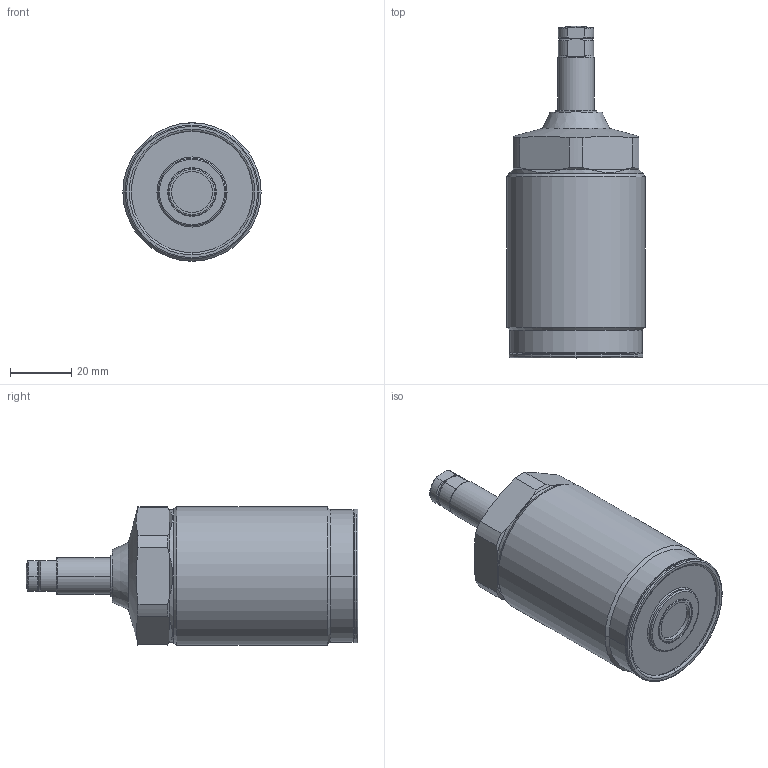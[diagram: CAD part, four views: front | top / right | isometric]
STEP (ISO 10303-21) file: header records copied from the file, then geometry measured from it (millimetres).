
FILE_DESCRIPTION(/* description */ (''),/* implementation_level */ '2;1');
FILE_NAME(/* name */ 'TNE45-Q.stp',/* time_stamp */ '2025-01-09T15:51:03+08:00',/* author */ (''),/* organization */ (''),/* preprocessor_version */ 'ST-DEVELOPER v16.7',/* originating_system */ 'SIEMENS PLM Software NX 12.0',/* authorisation */ '');
FILE_SCHEMA (('AUTOMOTIVE_DESIGN { 1 0 10303 214 3 1 1 1 }'));
Length unit declared in the file: millimetre
Products named in the file (7): XLD-M8_contactbolt1848736; XLD-M8_Oring50737; TNE45-Q-01; TNE45-Q-3; TNE45-Q-2; TNE45-Q-4; TNE45-Q_stp
Assembly tree (6 placements, depth 3):
  TNE45-Q_stp
    TNE45-Q-2
    TNE45-Q-3
    TNE45-Q-4
      XLD-M8_Oring50737
      XLD-M8_contactbolt1848736
    TNE45-Q-01
Bounding box: 45 x 108 x 45 mm (x, y, z)
Volume: 116257 mm3; surface area: 16362.5 mm2
Topology: 5 solids, 5 shells, 146 faces, 316 edges, 190 vertices
Faces by surface type: cylinder 46, torus 38, plane 37, cone 23, sphere 2
Full cylindrical faces by diameter (mm): 43.2 x1, 45 x1
Entity records: 4298 total; most frequent: CARTESIAN_POINT 862, DIRECTION 784, ORIENTED_EDGE 622, AXIS2_PLACEMENT_3D 352, EDGE_CURVE 311, CIRCLE 193, VERTEX_POINT 190, EDGE_LOOP 167
